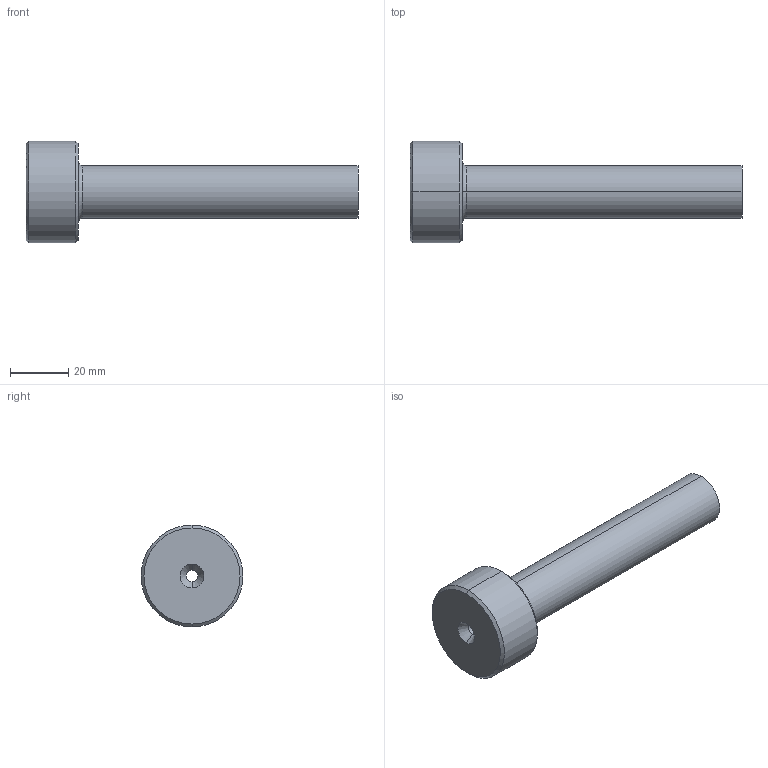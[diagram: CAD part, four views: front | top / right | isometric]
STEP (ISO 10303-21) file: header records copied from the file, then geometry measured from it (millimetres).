
FILE_DESCRIPTION (( 'STEP AP214' ), '1' );
FILE_NAME ('BRB7-096.STEP', '2020-01-29T09:58:13', ( 'August' ), ( '' ), 'SwSTEP 2.0', 'SolidWorks 2018', '' );
FILE_SCHEMA (( 'AUTOMOTIVE_DESIGN' ));
Length unit declared in the file: millimetre
Products named in the file (1): BRB7-096
Bounding box: 114 x 35 x 35 mm (x, y, z)
Volume: 38393.8 mm3; surface area: 11204.8 mm2
Topology: 1 solids, 1 shells, 17 faces, 34 edges, 20 vertices
Faces by surface type: cone 8, cylinder 4, plane 3, torus 2
Entity records: 484 total; most frequent: DIRECTION 92, CARTESIAN_POINT 72, ORIENTED_EDGE 68, AXIS2_PLACEMENT_3D 40, EDGE_CURVE 34, CIRCLE 22, VERTEX_POINT 20, EDGE_LOOP 20
